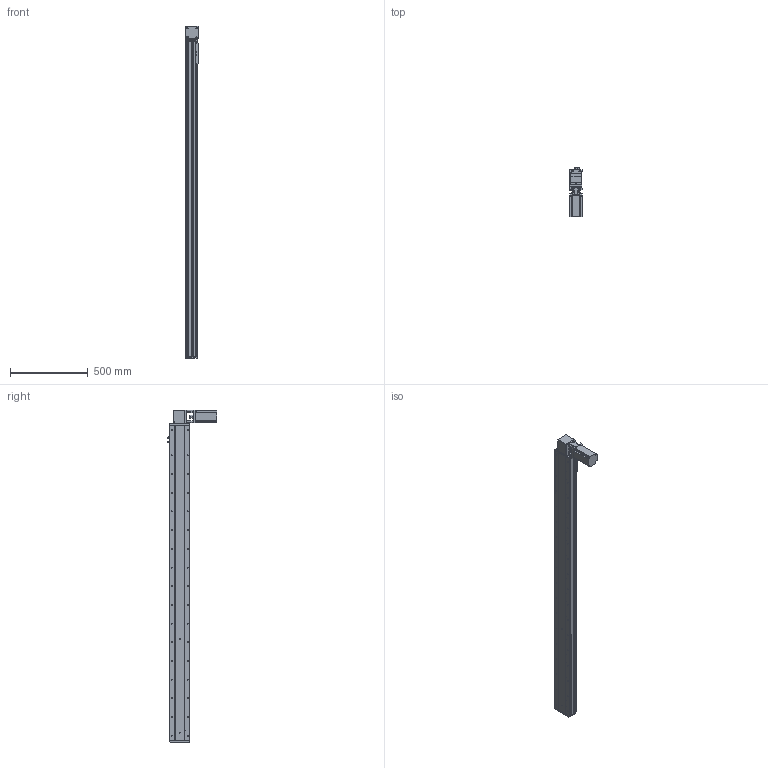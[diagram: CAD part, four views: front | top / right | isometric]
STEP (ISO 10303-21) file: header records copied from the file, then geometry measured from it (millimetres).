
FILE_DESCRIPTION (( 'STEP AP214' ), '1' );
FILE_NAME ('KSD130B-S1800-MLT-CM.STEP', '2019-09-23T07:40:13', ( '微软用户' ), ( '微软中国' ), 'SwSTEP 2.0', 'SolidWorks 2014', '' );
FILE_SCHEMA (( 'AUTOMOTIVE_DESIGN' ));
Length unit declared in the file: millimetre
Products named in the file (12): 台达ECMA－C20807AS伺服电机; 130宽马达安装板1-带电机座750W（1）; U倰嫖萇EEㄜSX672; 覜茼え100遵圉猾敕; 130宽安装板同步带带电机座750W; 130宽盖板半封闭同步带-1800行程; 130宽马达安装板同步带左-改; 130宽马达安装板同步带半封闭; 130宽同步带安装座半封闭; 130宽端盖同步带半封闭; 130宽底板半封闭同步带-1800行程; KSD130B-S1800-MLT-CM
Assembly tree (12 placements, depth 2):
  KSD130B-S1800-MLT-CM
    130宽底板半封闭同步带-1800行程
    130宽端盖同步带半封闭
    130宽同步带安装座半封闭
    130宽马达安装板同步带半封闭
    130宽马达安装板同步带左-改
    130宽盖板半封闭同步带-1800行程
    130宽安装板同步带带电机座750W
    覜茼え100遵圉猾敕
    U倰嫖萇EEㄜSX672  x2
    130宽马达安装板1-带电机座750W（1）
    台达ECMA－C20807AS伺服电机
Bounding box: 81 x 316 x 2133 mm (x, y, z)
Volume: 7120374.1 mm3; surface area: 1973169.4 mm2
Topology: 13 solids, 13 shells, 1617 faces, 4710 edges, 2973 vertices
Faces by surface type: cylinder 821, plane 563, cone 233
Entity records: 58499 total; most frequent: CARTESIAN_POINT 11322, DIRECTION 8812, ORIENTED_EDGE 8516, EDGE_CURVE 4258, AXIS2_PLACEMENT_3D 3263, VERTEX_POINT 2785, LINE 2286, VECTOR 2286
